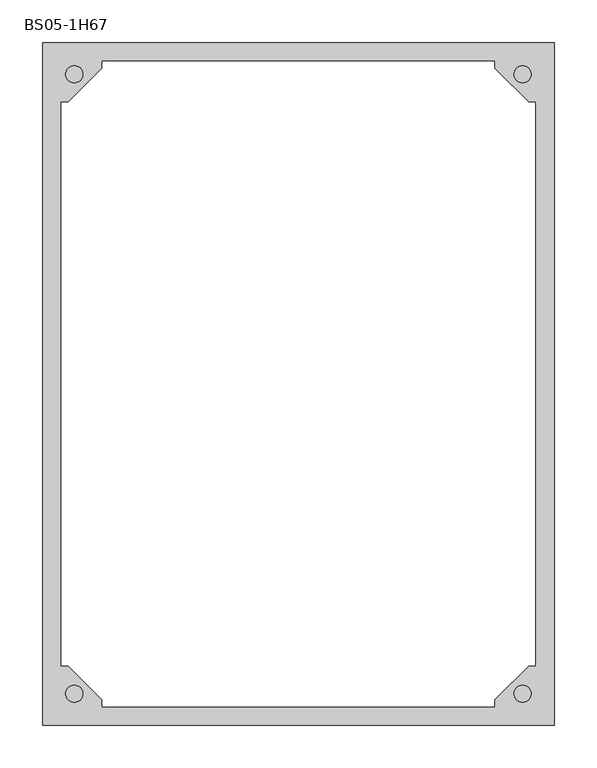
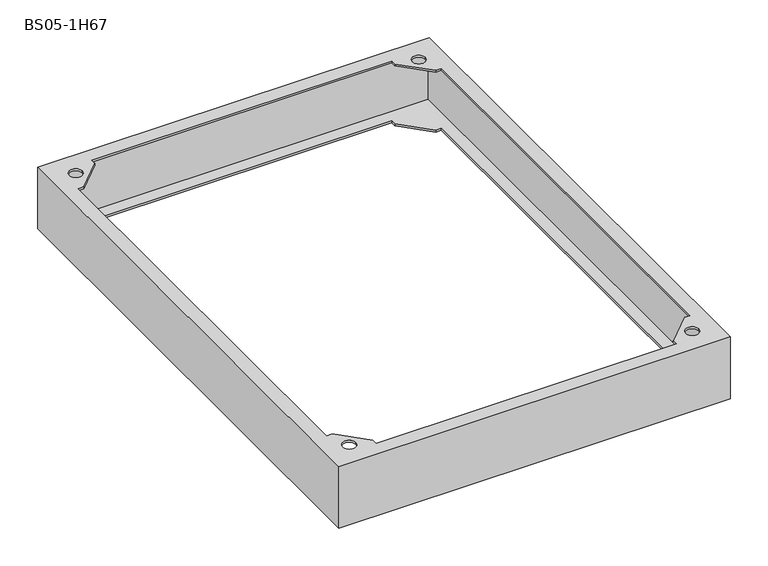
"""IFC4 building model written with IfcOpenShell, lengths in millimetres: proxy geometry, Цоколь для напольных шкафов : BS05-1H67."""

from ifc_helpers import new_model, si_unit, frame, origin, place, context, project, spatial, polyline, circle_curve, source, transform, mapped, element, save
from ifc_brep_helpers import plane_surface, revolved_surface, advanced_brep


def bs05_1h67_fe30b583(model_context):
    return source(origin(), model_context, "Body", "AdvancedBrep", [
        advanced_brep(
        [(300.0, -400.0, 100.0), (300.0, -400.0, 97.0), (300.0, -400.0, 3.0), (300.0, -400.0, 0.0), (300.0, 400.0, 0.0), (300.0, 400.0, 3.0), (300.0, 400.0, 97.0), (300.0, 400.0, 100.0), (278.0, 330.0, 0.0), (278.0, -330.0, 0.0), (278.0, -330.0, 3.0), (278.0, 330.0, 3.0), (297.0, 397.0, 97.0), (297.0, 397.0, 3.0), (297.0, -397.0, 3.0), (297.0, -397.0, 97.0), (278.0, 330.0, 97.0), (278.0, -330.0, 97.0), (278.0, -330.0, 100.0), (278.0, 330.0, 100.0), (-300.0, -400.0, 100.0), (-300.0, -400.0, 97.0), (-300.0, -400.0, 3.0), (-300.0, -400.0, 0.0), (230.0, -378.0, 0.0), (-230.0, -378.0, 0.0), (-230.0, -378.0, 3.0), (230.0, -378.0, 3.0), (-297.0, -397.0, 3.0), (-297.0, -397.0, 97.0), (230.0, -378.0, 97.0), (-230.0, -378.0, 97.0), (-230.0, -378.0, 100.0), (230.0, -378.0, 100.0), (-300.0, 400.0, 100.0), (-300.0, 400.0, 97.0), (-300.0, 400.0, 3.0), (-300.0, 400.0, 0.0), (-278.0, -330.0, 0.0), (-278.0, 330.0, 0.0), (-278.0, 330.0, 3.0), (-278.0, -330.0, 3.0), (-297.0, 397.0, 3.0), (-297.0, 397.0, 97.0), (-278.0, -330.0, 97.0), (-278.0, 330.0, 97.0), (-278.0, 330.0, 100.0), (-278.0, -330.0, 100.0), (-230.0, -370.0, 100.0), (-270.0, -330.0, 100.0), (-270.0, 330.0, 100.0), (-230.0, 370.0, 100.0), (-230.0, 378.0, 100.0), (230.0, 378.0, 100.0), (230.0, 370.0, 100.0), (270.0, 330.0, 100.0), (270.0, -330.0, 100.0), (230.0, -370.0, 100.0), (-252.9289322, -362.9289322, 100.0), (-272.9289322, -362.9289322, 100.0), (272.9289322, -362.9289322, 100.0), (252.9289322, -362.9289322, 100.0), (-252.9289322, 362.9289322, 100.0), (-272.9289322, 362.9289322, 100.0), (272.9289322, 362.9289322, 100.0), (252.9289322, 362.9289322, 100.0), (270.0, 330.0, 0.0), (230.0, 370.0, 0.0), (230.0, 378.0, 0.0), (-230.0, 378.0, 0.0), (-230.0, 370.0, 0.0), (-270.0, 330.0, 0.0), (-270.0, -330.0, 0.0), (-230.0, -370.0, 0.0), (230.0, -370.0, 0.0), (270.0, -330.0, 0.0), (230.0, 378.0, 3.0), (-230.0, 378.0, 3.0), (270.0, -330.0, 3.0), (230.0, -370.0, 3.0), (-230.0, -370.0, 3.0), (-270.0, -330.0, 3.0), (-270.0, 330.0, 3.0), (-230.0, 370.0, 3.0), (230.0, 370.0, 3.0), (270.0, 330.0, 3.0), (-270.0, -330.0, 97.0), (-230.0, -370.0, 97.0), (230.0, -370.0, 97.0), (270.0, -330.0, 97.0), (270.0, 330.0, 97.0), (230.0, 370.0, 97.0), (230.0, 378.0, 97.0), (-230.0, 378.0, 97.0), (-230.0, 370.0, 97.0), (-270.0, 330.0, 97.0), (-252.9289322, -362.9289322, 97.0), (-272.9289322, -362.9289322, 97.0), (272.9289322, -362.9289322, 97.0), (252.9289322, -362.9289322, 97.0), (-252.9289322, 362.9289322, 97.0), (-272.9289322, 362.9289322, 97.0), (272.9289322, 362.9289322, 97.0), (252.9289322, 362.9289322, 97.0)],
        [
            (0, 1),
            (1, 2),
            (2, 3),
            (3, 4),
            (4, 5),
            (5, 6),
            (6, 7),
            (7, 0),
            (8, 9),
            (9, 10),
            (10, 11),
            (11, 8),
            (12, 13),
            (13, 14),
            (14, 15),
            (15, 12),
            (16, 17),
            (17, 18),
            (18, 19),
            (19, 16),
            (0, 20),
            (20, 21),
            (21, 22),
            (22, 23),
            (23, 3),
            (24, 25),
            (25, 26),
            (26, 27),
            (27, 24),
            (14, 28),
            (28, 29),
            (29, 15),
            (30, 31),
            (31, 32),
            (32, 33),
            (33, 30),
            (20, 34),
            (34, 35),
            (35, 36),
            (36, 37),
            (37, 23),
            (38, 39),
            (39, 40),
            (40, 41),
            (41, 38),
            (28, 42),
            (42, 43),
            (43, 29),
            (44, 45),
            (45, 46),
            (46, 47),
            (47, 44),
            (7, 34),
            (48, 49),
            (49, 47),
            (46, 50),
            (50, 51),
            (51, 52),
            (52, 53),
            (53, 54),
            (54, 55),
            (55, 19),
            (18, 56),
            (56, 57),
            (57, 33),
            (32, 48),
            (58, 59, circle_curve(frame((-262.9289322, -362.9289322, 100.0), z_axis=(0.0, 0.0, -1.0), x_axis=(-1.0, 0.0, 0.0)), 10.0)),
            (59, 58, circle_curve(frame((-262.9289322, -362.9289322, 100.0), z_axis=(0.0, 0.0, -1.0), x_axis=(-1.0, 0.0, 0.0)), 10.0)),
            (60, 61, circle_curve(frame((262.9289322, -362.9289322, 100.0), z_axis=(0.0, 0.0, -1.0), x_axis=(-1.0, 0.0, 0.0)), 10.0)),
            (61, 60, circle_curve(frame((262.9289322, -362.9289322, 100.0), z_axis=(0.0, 0.0, -1.0), x_axis=(-1.0, 0.0, 0.0)), 10.0)),
            (62, 63, circle_curve(frame((-262.9289322, 362.9289322, 100.0), z_axis=(0.0, 0.0, -1.0), x_axis=(-1.0, 0.0, 0.0)), 10.0)),
            (63, 62, circle_curve(frame((-262.9289322, 362.9289322, 100.0), z_axis=(0.0, 0.0, -1.0), x_axis=(-1.0, 0.0, 0.0)), 10.0)),
            (64, 65, circle_curve(frame((262.9289322, 362.9289322, 100.0), z_axis=(0.0, 0.0, -1.0), x_axis=(-1.0, 0.0, 0.0)), 10.0)),
            (65, 64, circle_curve(frame((262.9289322, 362.9289322, 100.0), z_axis=(0.0, 0.0, -1.0), x_axis=(-1.0, 0.0, 0.0)), 10.0)),
            (4, 37),
            (8, 66),
            (66, 67),
            (67, 68),
            (68, 69),
            (69, 70),
            (70, 71),
            (71, 39),
            (38, 72),
            (72, 73),
            (73, 25),
            (24, 74),
            (74, 75),
            (75, 9),
            (68, 76),
            (76, 77),
            (77, 69),
            (13, 42),
            (10, 78),
            (78, 79),
            (79, 27),
            (26, 80),
            (80, 81),
            (81, 41),
            (40, 82),
            (82, 83),
            (83, 77),
            (76, 84),
            (84, 85),
            (85, 11),
            (12, 43),
            (86, 87),
            (87, 31),
            (30, 88),
            (88, 89),
            (89, 17),
            (16, 90),
            (90, 91),
            (91, 92),
            (92, 93),
            (93, 94),
            (94, 95),
            (95, 45),
            (44, 86),
            (96, 97, circle_curve(frame((-262.9289322, -362.9289322, 97.0), z_axis=(0.0, 0.0, 1.0), x_axis=(-1.0, 0.0, 0.0)), 10.0)),
            (97, 96, circle_curve(frame((-262.9289322, -362.9289322, 97.0), z_axis=(0.0, 0.0, 1.0), x_axis=(-1.0, 0.0, 0.0)), 10.0)),
            (98, 99, circle_curve(frame((262.9289322, -362.9289322, 97.0), z_axis=(0.0, 0.0, 1.0), x_axis=(-1.0, 0.0, 0.0)), 10.0)),
            (99, 98, circle_curve(frame((262.9289322, -362.9289322, 97.0), z_axis=(0.0, 0.0, 1.0), x_axis=(-1.0, 0.0, 0.0)), 10.0)),
            (100, 101, circle_curve(frame((-262.9289322, 362.9289322, 97.0), z_axis=(0.0, 0.0, 1.0), x_axis=(-1.0, 0.0, 0.0)), 10.0)),
            (101, 100, circle_curve(frame((-262.9289322, 362.9289322, 97.0), z_axis=(0.0, 0.0, 1.0), x_axis=(-1.0, 0.0, 0.0)), 10.0)),
            (102, 103, circle_curve(frame((262.9289322, 362.9289322, 97.0), z_axis=(0.0, 0.0, 1.0), x_axis=(-1.0, 0.0, 0.0)), 10.0)),
            (103, 102, circle_curve(frame((262.9289322, 362.9289322, 97.0), z_axis=(0.0, 0.0, 1.0), x_axis=(-1.0, 0.0, 0.0)), 10.0)),
            (52, 93),
            (92, 53),
            (87, 48),
            (86, 49),
            (89, 56),
            (88, 57),
            (95, 50),
            (94, 51),
            (91, 54),
            (90, 55),
            (58, 96),
            (97, 59),
            (60, 98),
            (99, 61),
            (62, 100),
            (101, 63),
            (64, 102),
            (103, 65),
            (73, 80),
            (72, 81),
            (75, 78),
            (74, 79),
            (71, 82),
            (70, 83),
            (67, 84),
            (66, 85),
        ],
        [
            plane_surface(frame((300.0, 400.0, 100.0), z_axis=(1.0, 0.0, 0.0), x_axis=(0.0, -1.0, 0.0))),
            plane_surface(frame((278.0, 378.0, 0.0), z_axis=(-1.0, 0.0, 0.0), x_axis=(0.0, -1.0, 0.0))),
            plane_surface(frame((297.0, 397.0, 3.0), z_axis=(-1.0, 0.0, 0.0), x_axis=(0.0, -1.0, 0.0))),
            plane_surface(frame((278.0, 378.0, 97.0), z_axis=(-1.0, 0.0, 0.0), x_axis=(0.0, -1.0, 0.0))),
            plane_surface(frame((300.0, -400.0, 100.0), z_axis=(0.0, -1.0, 0.0), x_axis=(-1.0, 0.0, 0.0))),
            plane_surface(frame((278.0, -378.0, 0.0), z_axis=(0.0, 1.0, 0.0), x_axis=(-1.0, 0.0, 0.0))),
            plane_surface(frame((297.0, -397.0, 3.0), z_axis=(0.0, 1.0, 0.0), x_axis=(-1.0, 0.0, 0.0))),
            plane_surface(frame((278.0, -378.0, 97.0), z_axis=(0.0, 1.0, 0.0), x_axis=(-1.0, 0.0, 0.0))),
            plane_surface(frame((-300.0, -400.0, 100.0), z_axis=(-1.0, 0.0, 0.0), x_axis=(0.0, 1.0, 0.0))),
            plane_surface(frame((-278.0, -378.0, 0.0), z_axis=(1.0, 0.0, 0.0), x_axis=(0.0, 1.0, 0.0))),
            plane_surface(frame((-297.0, -397.0, 3.0), z_axis=(1.0, 0.0, 0.0), x_axis=(0.0, 1.0, 0.0))),
            plane_surface(frame((-278.0, -378.0, 97.0), z_axis=(1.0, 0.0, 0.0), x_axis=(0.0, 1.0, 0.0))),
            plane_surface(frame((-278.0, 378.0, 100.0), z_axis=(0.0, 0.0, 1.0), x_axis=(1.0, 0.0, 0.0))),
            plane_surface(frame((-300.0, 400.0, 100.0), z_axis=(0.0, 1.0, 0.0), x_axis=(1.0, 0.0, 0.0))),
            plane_surface(frame((-300.0, 400.0, 0.0), z_axis=(0.0, 0.0, -1.0), x_axis=(1.0, 0.0, 0.0))),
            plane_surface(frame((-278.0, 378.0, 0.0), z_axis=(0.0, -1.0, 0.0), x_axis=(1.0, 0.0, 0.0))),
            plane_surface(frame((-278.0, 378.0, 3.0), z_axis=(0.0, 0.0, 1.0), x_axis=(1.0, 0.0, 0.0))),
            plane_surface(frame((-297.0, 397.0, 3.0), z_axis=(0.0, -1.0, 0.0), x_axis=(1.0, 0.0, 0.0))),
            plane_surface(frame((-297.0, 397.0, 97.0), z_axis=(0.0, 0.0, -1.0), x_axis=(1.0, 0.0, 0.0))),
            plane_surface(frame((-278.0, 378.0, 97.0), z_axis=(0.0, -1.0, 0.0), x_axis=(1.0, 0.0, 0.0))),
            plane_surface(frame((-230.0, -400.0, 100.0), z_axis=(1.0, 0.0, 0.0), x_axis=(0.0, 0.0, -1.0))),
            plane_surface(frame((-230.0, -370.0, 100.0), z_axis=(0.7071067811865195, 0.7071067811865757, 0.0), x_axis=(0.0, 0.0, -1.0))),
            plane_surface(frame((-270.0, -330.0, 100.0), z_axis=(0.0, 1.0, 0.0), x_axis=(0.0, 0.0, -1.0))),
            plane_surface(frame((300.0, -330.0, 100.0), z_axis=(0.0, 1.0, 0.0), x_axis=(0.0, 0.0, -1.0))),
            plane_surface(frame((270.0, -330.0, 100.0), z_axis=(-0.7071067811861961, 0.707106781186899, 0.0), x_axis=(0.0, 0.0, -1.0))),
            plane_surface(frame((230.0, -370.0, 100.0), z_axis=(-1.0, 0.0, 0.0), x_axis=(0.0, 0.0, -1.0))),
            plane_surface(frame((-300.0, 330.0, 100.0), z_axis=(0.0, -1.0, 0.0), x_axis=(0.0, 0.0, -1.0))),
            plane_surface(frame((-270.0, 330.0, 100.0), z_axis=(0.7071067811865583, -0.7071067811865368, 0.0), x_axis=(0.0, 0.0, -1.0))),
            plane_surface(frame((-230.0, 370.0, 100.0), z_axis=(1.0, 0.0, 0.0), x_axis=(0.0, 0.0, -1.0))),
            plane_surface(frame((230.0, 400.0, 100.0), z_axis=(-1.0, 0.0, 0.0), x_axis=(0.0, 0.0, -1.0))),
            plane_surface(frame((230.0, 370.0, 100.0), z_axis=(-0.7071067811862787, -0.7071067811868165, 0.0), x_axis=(0.0, 0.0, -1.0))),
            plane_surface(frame((270.0, 330.0, 100.0), z_axis=(0.0, -1.0, 0.0), x_axis=(0.0, 0.0, -1.0))),
            revolved_surface(polyline([(-272.9289322, -362.9289322, 97.0), (-272.9289322, -362.9289322, 100.0)]), (-262.9289322, -362.9289322, 100.0), (0.0, 0.0, -1.0)),
            revolved_surface(polyline([(252.92893220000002, -362.9289322, 97.0), (252.92893220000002, -362.9289322, 100.0)]), (262.9289322, -362.9289322, 100.0), (0.0, 0.0, -1.0)),
            revolved_surface(polyline([(-272.9289322, 362.9289322, 97.0), (-272.9289322, 362.9289322, 100.0)]), (-262.9289322, 362.9289322, 100.0), (0.0, 0.0, -1.0)),
            revolved_surface(polyline([(252.92893220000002, 362.9289322, 97.0), (252.92893220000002, 362.9289322, 100.0)]), (262.9289322, 362.9289322, 100.0), (0.0, 0.0, -1.0)),
            plane_surface(frame((-230.0, -400.0, 3.0), z_axis=(1.0, 0.0, 0.0), x_axis=(0.0, 0.0, -1.0))),
            plane_surface(frame((-230.0, -370.0, 3.0), z_axis=(0.7071067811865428, 0.7071067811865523, 0.0), x_axis=(0.0, 0.0, -1.0))),
            plane_surface(frame((-270.0, -330.0, 3.0), z_axis=(0.0, 1.0, 0.0), x_axis=(0.0, 0.0, -1.0))),
            plane_surface(frame((300.0, -330.0, 3.0), z_axis=(0.0, 1.0, 0.0), x_axis=(0.0, 0.0, -1.0))),
            plane_surface(frame((270.0, -330.0, 3.0), z_axis=(-0.7071067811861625, 0.7071067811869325, 0.0), x_axis=(0.0, 0.0, -1.0))),
            plane_surface(frame((230.0, -370.0, 3.0), z_axis=(-1.0, 0.0, 0.0), x_axis=(0.0, 0.0, -1.0))),
            plane_surface(frame((-300.0, 330.0, 3.0), z_axis=(0.0, -1.0, 0.0), x_axis=(0.0, 0.0, -1.0))),
            plane_surface(frame((-270.0, 330.0, 3.0), z_axis=(0.7071067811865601, -0.7071067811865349, 0.0), x_axis=(0.0, 0.0, -1.0))),
            plane_surface(frame((-230.0, 370.0, 3.0), z_axis=(1.0, 0.0, 0.0), x_axis=(0.0, 0.0, -1.0))),
            plane_surface(frame((230.0, 400.0, 3.0), z_axis=(-1.0, 0.0, 0.0), x_axis=(0.0, 0.0, -1.0))),
            plane_surface(frame((230.0, 370.0, 3.0), z_axis=(-0.7071067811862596, -0.7071067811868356, 0.0), x_axis=(0.0, 0.0, -1.0))),
            plane_surface(frame((270.0, 330.0, 3.0), z_axis=(0.0, -1.0, 0.0), x_axis=(0.0, 0.0, -1.0))),
        ],
        [
            (0, [[1, 2, 3, 4, 5, 6, 7, 8]]),
            (1, [[9, 10, 11, 12]]),
            (2, [[13, 14, 15, 16]]),
            (3, [[17, 18, 19, 20]]),
            (4, [[-1, 21, 22, 23, 24, 25, -3, -2]]),
            (5, [[26, 27, 28, 29]]),
            (6, [[-15, 30, 31, 32]]),
            (7, [[33, 34, 35, 36]]),
            (8, [[-22, 37, 38, 39, 40, 41, -24, -23]]),
            (9, [[42, 43, 44, 45]]),
            (10, [[-31, 46, 47, 48]]),
            (11, [[49, 50, 51, 52]]),
            (12, [[-8, 53, -37, -21], [54, 55, -51, 56, 57, 58, 59, 60, 61, 62, -19, 63, 64, 65, -35, 66], [67, 68], [69, 70], [71, 72], [73, 74]]),
            (13, [[-38, -53, -7, -6, -5, 75, -40, -39]]),
            (14, [[-4, -25, -41, -75], [-9, 76, 77, 78, 79, 80, 81, 82, -42, 83, 84, 85, -26, 86, 87, 88]]),
            (15, [[-79, 89, 90, 91]]),
            (16, [[-14, 92, -46, -30], [-11, 93, 94, 95, -28, 96, 97, 98, -44, 99, 100, 101, -90, 102, 103, 104]]),
            (17, [[-92, -13, 105, -47]]),
            (18, [[-32, -48, -105, -16], [106, 107, -33, 108, 109, 110, -17, 111, 112, 113, 114, 115, 116, 117, -49, 118], [119, 120], [121, 122], [123, 124], [125, 126]]),
            (19, [[-59, 127, -114, 128]]),
            (20, [[129, -66, -34, -107]]),
            (21, [[-54, -129, -106, 130]]),
            (22, [[-130, -118, -52, -55]]),
            (23, [[131, -63, -18, -110]]),
            (24, [[-64, -131, -109, 132]]),
            (25, [[-132, -108, -36, -65]]),
            (26, [[133, -56, -50, -117]]),
            (27, [[-57, -133, -116, 134]]),
            (28, [[-134, -115, -127, -58]]),
            (29, [[135, -60, -128, -113]]),
            (30, [[-61, -135, -112, 136]]),
            (31, [[-136, -111, -20, -62]]),
            (32, [[-67, 137, -120, 138]]),
            (32, [[-68, -138, -119, -137]]),
            (33, [[-69, 139, -122, 140]]),
            (33, [[-70, -140, -121, -139]]),
            (34, [[-71, 141, -124, 142]]),
            (34, [[-72, -142, -123, -141]]),
            (35, [[-73, 143, -126, 144]]),
            (35, [[-74, -144, -125, -143]]),
            (36, [[145, -96, -27, -85]]),
            (37, [[-97, -145, -84, 146]]),
            (38, [[-146, -83, -45, -98]]),
            (39, [[147, -93, -10, -88]]),
            (40, [[-94, -147, -87, 148]]),
            (41, [[-148, -86, -29, -95]]),
            (42, [[149, -99, -43, -82]]),
            (43, [[-100, -149, -81, 150]]),
            (44, [[-150, -80, -91, -101]]),
            (45, [[151, -102, -89, -78]]),
            (46, [[-103, -151, -77, 152]]),
            (47, [[-152, -76, -12, -104]]),
        ],
    ),
    ])


if __name__ == "__main__":
    model = new_model("IFC4")
    model_context = context("Model", 3, world=origin())
    ifc_project = project(units=[si_unit("LENGTHUNIT", "METRE", prefix="MILLI")], contexts=[model_context])
    site = spatial("IfcSite", under=ifc_project)
    building = spatial("IfcBuilding", under=site)
    placement = place(None, origin())
    bs05_1h67_shape = bs05_1h67_fe30b583(model_context)
    element("IfcBuildingElementProxy", 1, Name="Цоколь для напольных шкафов : BS05-1H67", ObjectType="Цоколь для напольных шкафов : BS05-1H67", at=placement, inside=building, context=model_context, shape_type="MappedRepresentation", body=[
        mapped(bs05_1h67_shape, transform((0.0, 0.0, 0.0), x_axis=(1.0, 0.0, 0.0), y_axis=(0.0, 1.0, 0.0), z_axis=(0.0, 0.0, 1.0))),
    ])
    save(model, "model.ifc")
